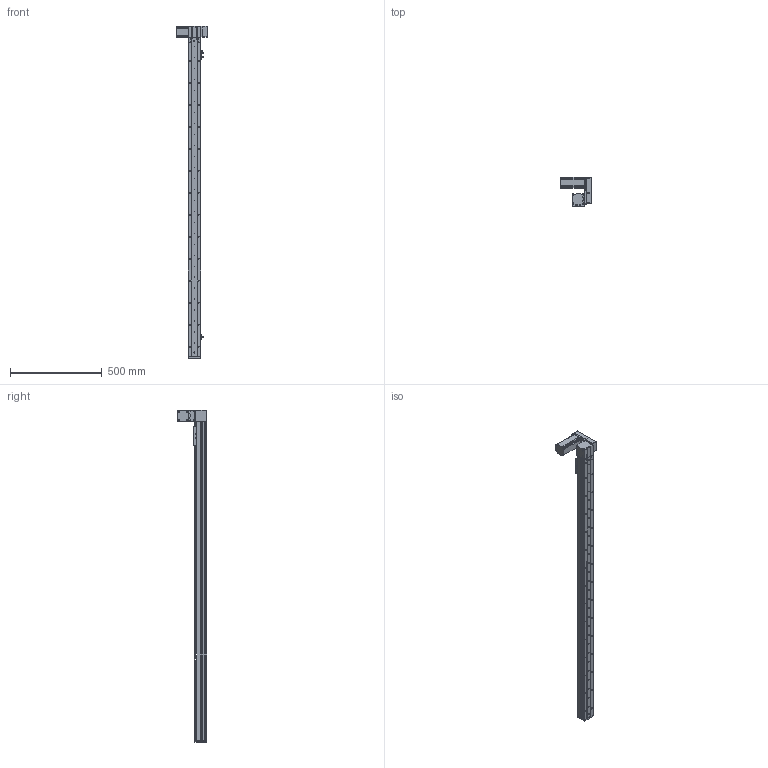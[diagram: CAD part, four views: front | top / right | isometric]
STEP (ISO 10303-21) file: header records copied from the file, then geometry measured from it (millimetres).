
FILE_DESCRIPTION (( 'STEP AP214' ), '1' );
FILE_NAME ('KSD68BS-S1550-MLU-CM.STEP', '2019-11-06T07:05:07', ( '微软用户' ), ( '微软中国' ), 'SwSTEP 2.0', 'SolidWorks 2014', '' );
FILE_SCHEMA (( 'AUTOMOTIVE_DESIGN' ));
Length unit declared in the file: millimetre
Products named in the file (11): 68宽单导轨半封闭同步带主动轮座左; 68单导轨同步带半封闭端板; KSD68BS 1550俴最裔啣圉猾敕; 覜茼え68遵圉猾敕; KSD68BS半封闭同步带传动导轨座; U倰嫖萇EEㄜSX672; 台达ECMA－C20604AS伺服电机（400W); KSD68BS 1550俴最菁啣圉猾敕; KSD68BS-S1550-MLU-CM; 悵誘欶奻狟殏; 68宽马达安装板连板上折同步带
Assembly tree (12 placements, depth 2):
  KSD68BS-S1550-MLU-CM
    KSD68BS 1550俴最菁啣圉猾敕
    台达ECMA－C20604AS伺服电机（400W)
    U倰嫖萇EEㄜSX672  x3
    KSD68BS半封闭同步带传动导轨座
    覜茼え68遵圉猾敕
    KSD68BS 1550俴最裔啣圉猾敕
    68单导轨同步带半封闭端板
    68宽单导轨半封闭同步带主动轮座左
    68宽马达安装板连板上折同步带
    悵誘欶奻狟殏
Bounding box: 167.2 x 159.5 x 1812 mm (x, y, z)
Volume: 3064479.8 mm3; surface area: 1133385.2 mm2
Topology: 13 solids, 13 shells, 1574 faces, 4604 edges, 3000 vertices
Faces by surface type: cylinder 826, plane 665, cone 83
Entity records: 61150 total; most frequent: CARTESIAN_POINT 12274, ORIENTED_EDGE 7960, DIRECTION 7708, EDGE_CURVE 3980, AXIS2_PLACEMENT_3D 2778, VERTEX_POINT 2624, LINE 2152, VECTOR 2152
